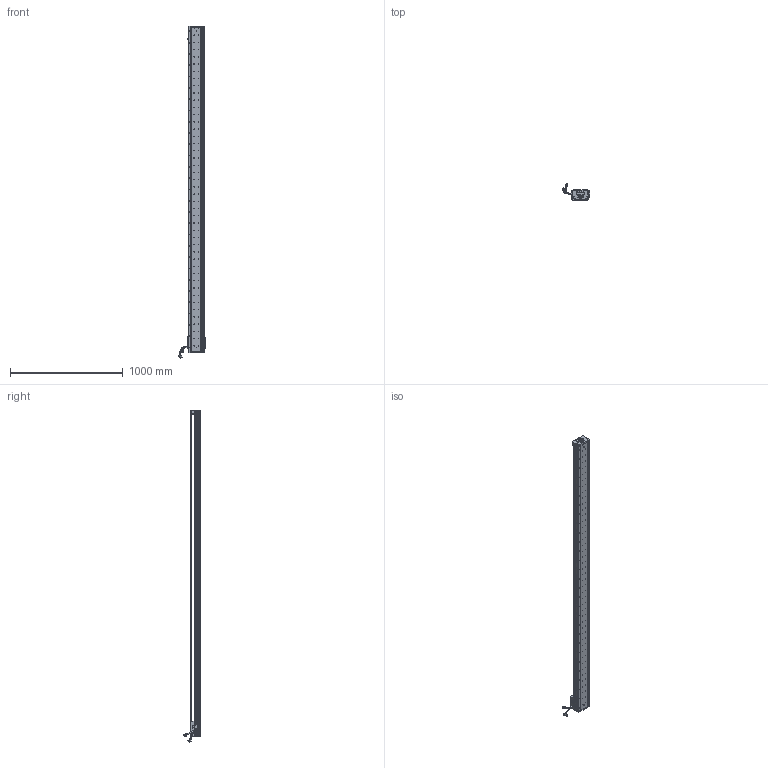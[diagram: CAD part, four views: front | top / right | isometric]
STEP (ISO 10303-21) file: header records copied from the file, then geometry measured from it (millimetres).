
FILE_DESCRIPTION (( 'STEP AP203' ), '1' );
FILE_NAME ('Z1-RY140D-1-L500-B-K.SLDASM_2700.step', '2021-05-17T07:36:15', ( '盈信电脑' ), ( '东莞市道滘镇水果街19号' ), 'SwSTEP 2.0', 'SolidWorks 2016', '' );
FILE_SCHEMA (( 'CONFIG_CONTROL_DESIGN' ));
Length unit declared in the file: millimetre
Products named in the file (36): SCREW-M1.6-2; HARNESS-Part-1; HOLDER0; SEAL; SCREW-M1.7-1; 140雄赽晤鎢ん堤盄; Z1-RY140D-1-L500-B-K.SLDASM_2700; HARNESS; Z-RY140詩湍狟揤裔; Z1-RY140-L500直线电机模组底座_2700; LABEL-Part-1; Z1-RY140圉猾敕臏賑輸(21遴); SEAL-Part-1; 080黍杅芛假蚾釱21遴; SCREW-M1.6-1; COVER; Z-RY140詩湍奻揤裔; LABEL; Z-140詩湍傷裔啣; 覜茼ん672; SCREW-M1.6; SCALE; PSLH080_PSLF2; 140蚥薯蝶輸; Z1-RY140-L500詩湍100mm遵_2700; SCREW-M1.7; SCALE-Part-2; SHIELDPLATE; SCREW-M1.6-3; 140-Z-臏賑輸盄裔(21遴); SCALE-Part-1; 榋妏寠巭燃_暯_M2_2; COVER-Part-1; HARNESS-Part-2; Z-RY140感应器672光电感应片; PBU_SHEET
Assembly tree (41 placements, depth 4):
  Z1-RY140D-1-L500-B-K.SLDASM_2700
    Z1-RY140-L500直线电机模组底座_2700
    Z-RY140感应器672光电感应片
    Z1-RY140圉猾敕臏賑輸(21遴)
    覜茼ん672  x3
    Z1-RY140-L500詩湍100mm遵_2700
    PSLH080_PSLF2
      SCALE
        SCALE-Part-1
        SCALE-Part-2
      HARNESS
        HARNESS-Part-1
        HARNESS-Part-2
      LABEL
        LABEL-Part-1
      COVER
        COVER-Part-1
      SEAL
        SEAL-Part-1
      榋妏寠巭燃_暯_M2_2
      SHIELDPLATE
      SCREW-M1.7
      SCREW-M1.7-1
      PBU_SHEET
      SCREW-M1.6
      SCREW-M1.6-1
      SCREW-M1.6-2
      SCREW-M1.6-3
      HOLDER0
    080黍杅芛假蚾釱21遴
    140-Z-臏賑輸盄裔(21遴)
    Z-140詩湍傷裔啣  x2
    Z-RY140詩湍狟揤裔  x2
    Z-RY140詩湍奻揤裔  x2
    140蚥薯蝶輸  x2
    140雄赽晤鎢ん堤盄
Bounding box: 239.79 x 143.88 x 2940.87 mm (x, y, z)
Volume: 8925021.7 mm3; surface area: 2366787.2 mm2
Topology: 36 solids, 36 shells, 4242 faces, 11612 edges, 7367 vertices
Faces by surface type: cylinder 2330, plane 1400, cone 390, torus 69, bspline 53
Entity records: 136240 total; most frequent: CARTESIAN_POINT 39341, ORIENTED_EDGE 20136, DIRECTION 18352, EDGE_CURVE 10068, AXIS2_PLACEMENT_3D 6810, VERTEX_POINT 6535, VECTOR 4732, LINE 4732
